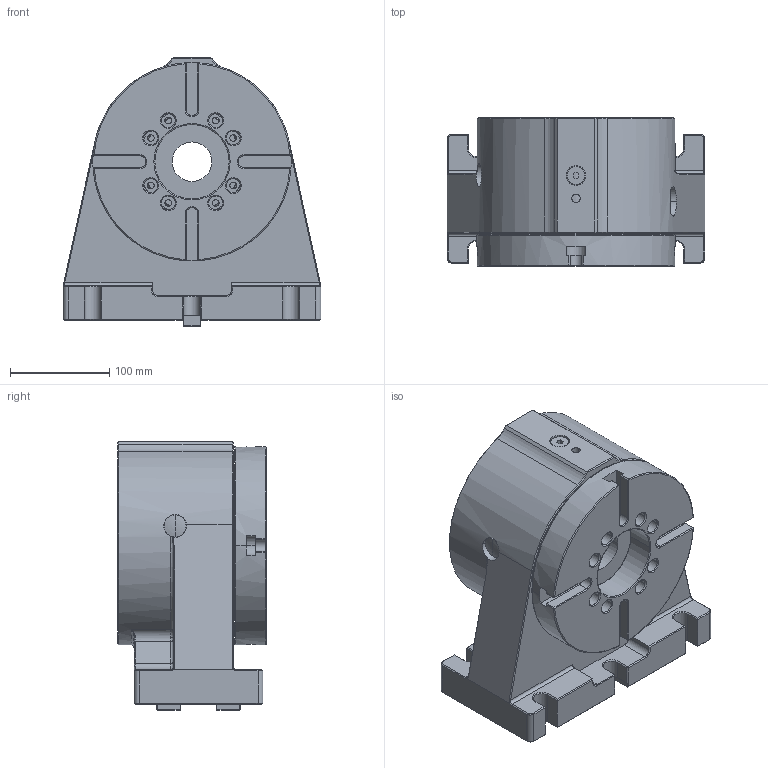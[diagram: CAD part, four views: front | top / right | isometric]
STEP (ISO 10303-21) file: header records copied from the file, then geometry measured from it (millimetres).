
FILE_DESCRIPTION (( 'STEP AP203' ), '1' );
FILE_NAME ('WDS-RS160 喜渡俋夤芞 REV.01.STEP', '2021-03-01T02:48:10', ( '' ), ( '' ), 'SwSTEP 2.0', 'SolidWorks 2018', '' );
FILE_SCHEMA (( 'CONFIG_CONTROL_DESIGN' ));
Length unit declared in the file: centimetre
Products named in the file (1): WDS-RS160 喜渡俋夤芞 REV.01
Bounding box: 260 x 149.85 x 271 mm (x, y, z)
Surface area: 369643.6 mm2 (no closed solid volume)
Topology: 0 solids, 12 shells, 524 faces, 1357 edges, 840 vertices
Faces by surface type: plane 225, cylinder 160, cone 92, torus 30, bspline 17
Entity records: 17448 total; most frequent: CARTESIAN_POINT 4526, DIRECTION 2808, ORIENTED_EDGE 2486, EDGE_CURVE 1344, AXIS2_PLACEMENT_3D 1032, VERTEX_POINT 840, VECTOR 744, LINE 744
